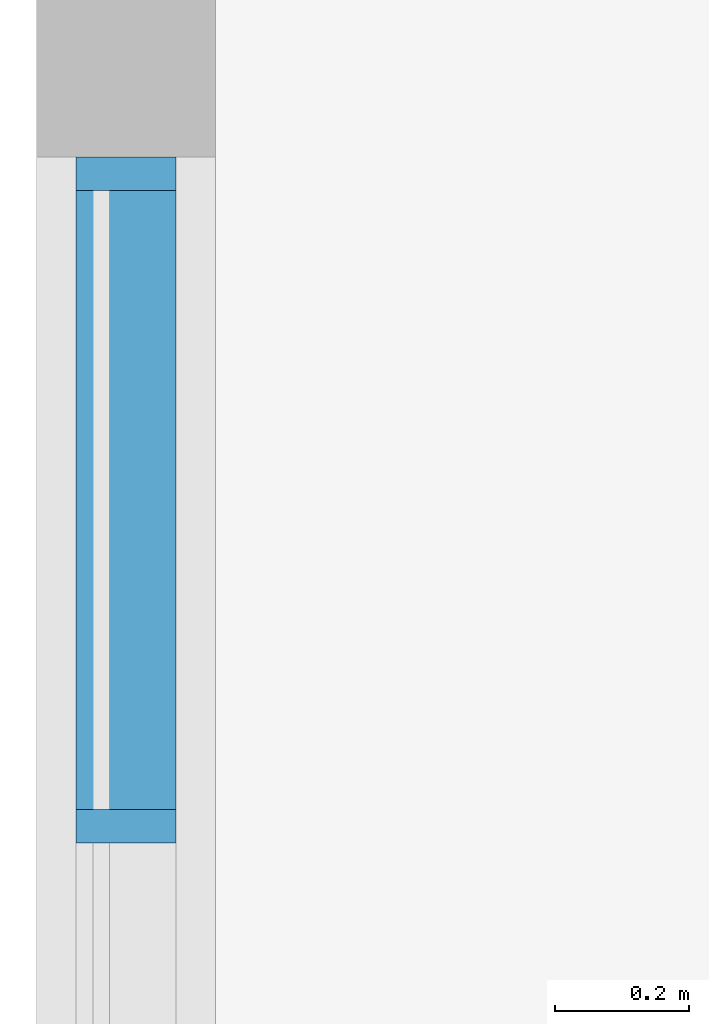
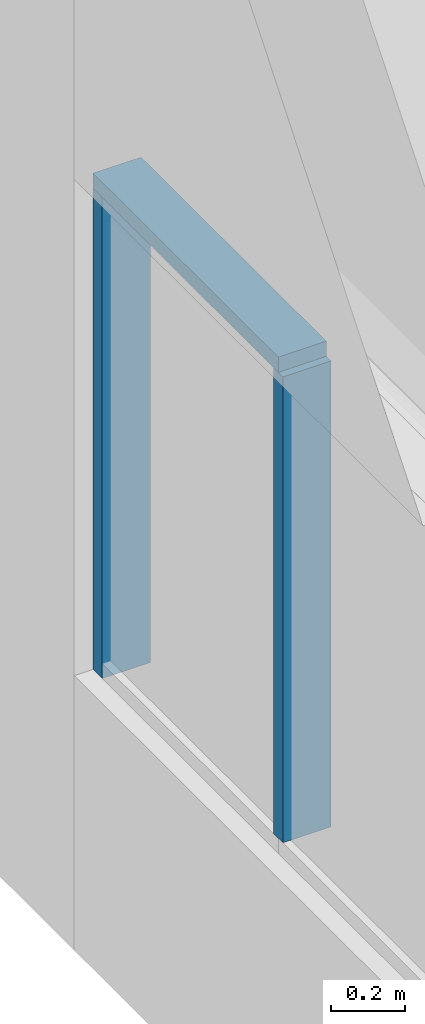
# One storey, part 4 of 87: 3 members, 1 element without a shape of its own.
"""IFC2X3 building model written with IfcOpenShell, lengths in metres."""

import ifcopenshell
import ifcopenshell.guid

model = None  # the IFC model being written
_history = None  # IfcOwnerHistory: only IFC2X3 demands one
_inside = {}  # id of a spatial element -> (the spatial element, [elements in it])
_under = {}  # id of a project, library or spatial element -> (it, [spatial elements below it])
_declared = {}  # id of a project -> (the project, [libraries it declares])
_typed = {}  # id of a type object -> (the type object, [elements of that type])
_made_of = {}  # id of a material, layer set ... -> (it, [elements and type objects made of it])


def new_model(schema):
    """Start an empty IFC model of exactly this schema.

    Asked for "IFC4X3", IfcOpenShell would pick the latest addendum, in which some entities
    have other attributes; the version numbers below select the first issue.
    IFC2X3 requires an IfcOwnerHistory on every rooted entity: one is made here for all.
    """
    global model, _history
    if schema == "IFC4X3":
        model = ifcopenshell.file(schema_version=(4, 3, 0, 0))
    else:
        model = ifcopenshell.file(schema=schema)
    _inside.clear()
    _under.clear()
    _declared.clear()
    _typed.clear()
    _made_of.clear()
    _history = None
    if model.schema == "IFC2X3":
        org = make("IfcOrganization", Name="unknown")
        user = make(
            "IfcPersonAndOrganization",
            ThePerson=make("IfcPerson", FamilyName="unknown"),
            TheOrganization=org,
        )
        app = make(
            "IfcApplication",
            ApplicationDeveloper=org,
            Version="unknown",
            ApplicationFullName="unknown",
            ApplicationIdentifier="unknown",
        )
        _history = make(
            "IfcOwnerHistory",
            OwningUser=user,
            OwningApplication=app,
            ChangeAction="ADDED",
            CreationDate=0,
        )
    return model


def make(cls, **values):
    """One entity of the class cls with the attributes given. An attribute that is None is left unset."""
    return model.create_entity(
        cls, **{name: value for name, value in values.items() if value is not None}
    )


def entity(cls, *values):
    """Any entity or typed value of the class cls, its attributes in the order of the schema. None: left unset."""
    e = model.create_entity(cls)
    for i, value in enumerate(values):
        if value is not None:
            e[i] = value
    return e


def rooted(cls, **values):
    """An entity with a GlobalId (a new one), such as an element, a storey or a relation."""
    return make(cls, GlobalId=ifcopenshell.guid.new(), OwnerHistory=_history, **values)


def si_unit(unit_type, name, prefix=None):
    """IfcSIUnit, for example si_unit("LENGTHUNIT", "METRE", prefix="MILLI")."""
    return make("IfcSIUnit", UnitType=unit_type, Prefix=prefix, Name=name)


def converted_unit(unit_type, name, factor, base, dimensions=None, offset=None):
    """IfcConversionBasedUnit, such as the inch: factor (a typed value) times the base unit."""
    return make(
        "IfcConversionBasedUnit"
        if offset is None
        else "IfcConversionBasedUnitWithOffset",
        ConversionOffset=offset,
        Dimensions=None
        if dimensions is None
        else entity("IfcDimensionalExponents", *dimensions),
        UnitType=unit_type,
        Name=name,
        ConversionFactor=make(
            "IfcMeasureWithUnit", ValueComponent=factor, UnitComponent=base
        ),
    )


def assignment(units):
    """IfcUnitAssignment: the units of a project."""
    return None if units is None else make("IfcUnitAssignment", Units=units)


def point(xyz):
    """IfcCartesianPoint."""
    return None if xyz is None else make("IfcCartesianPoint", Coordinates=xyz)


def direction(xyz):
    """IfcDirection."""
    return None if xyz is None else make("IfcDirection", DirectionRatios=xyz)


def frame(location, z_axis=None, x_axis=None):
    """IfcAxis2Placement3D, a coordinate frame: its origin and axes. An axis left out is left unset."""
    return make(
        "IfcAxis2Placement3D",
        Location=point(location),
        Axis=direction(z_axis),
        RefDirection=direction(x_axis),
    )


def frame_2d(location, x_axis=None):
    """IfcAxis2Placement2D, a coordinate frame in the plane: its origin and x axis."""
    return make(
        "IfcAxis2Placement2D", Location=point(location), RefDirection=direction(x_axis)
    )


def origin():
    """The frame at (0, 0, 0) with its axes left unset."""
    return frame((0.0, 0.0, 0.0))


def origin_2d_with_axis():
    """The frame at (0, 0) in the plane with the x axis (1, 0) written out."""
    return frame_2d((0.0, 0.0), x_axis=(1.0, 0.0))


def place(relative_to, where):
    """IfcLocalPlacement: puts the frame where relative to a parent placement (None: the world)."""
    return make(
        "IfcLocalPlacement", PlacementRelTo=relative_to, RelativePlacement=where
    )


def context(
    kind, dimensions, precision=None, world=None, true_north=None, identifier=None
):
    """IfcGeometricRepresentationContext, for example the 3D "Model" context."""
    return make(
        "IfcGeometricRepresentationContext",
        ContextIdentifier=identifier,
        ContextType=kind,
        CoordinateSpaceDimension=dimensions,
        Precision=precision,
        WorldCoordinateSystem=world,
        TrueNorth=true_north,
    )


def project(units=None, contexts=None):
    """IfcProject with its units and contexts."""
    return rooted(
        "IfcProject",
        Name="project",
        RepresentationContexts=contexts,
        UnitsInContext=assignment(units),
    )


def spatial(cls, under=None, at=None, **own):
    """A site, building, storey or space (cls), placed at a placement, below another one or the project."""
    s = rooted(cls, ObjectPlacement=at, **own)
    if under is not None:
        _under.setdefault(under.id(), (under, []))[1].append(s)
    return s


def profile(cls, at=None, kind="AREA", **sizes):
    """A parametric profile (cls). Its sizes go by their IFC names, for example OverallWidth=200.0."""
    return make(cls, ProfileType=kind, Position=at, **sizes)


def rectangle(**sizes):
    """IfcRectangleProfileDef."""
    return profile("IfcRectangleProfileDef", **sizes)


def extrude(swept, where, along, depth):
    """IfcExtrudedAreaSolid: the profile swept, set in the frame where, extruded along a direction by depth."""
    return make(
        "IfcExtrudedAreaSolid",
        SweptArea=swept,
        Position=where,
        ExtrudedDirection=direction(along),
        Depth=depth,
    )


def shape(context_of_items, identifier, shape_type, items):
    """IfcShapeRepresentation: the items that make up one representation, for example the "Body"."""
    return make(
        "IfcShapeRepresentation",
        ContextOfItems=context_of_items,
        RepresentationIdentifier=identifier,
        RepresentationType=shape_type,
        Items=items,
    )


def source(mapping_origin, context_of_items, identifier, shape_type, items):
    """IfcRepresentationMap: a shape defined once, which mapped items show again and again."""
    return make(
        "IfcRepresentationMap",
        MappingOrigin=mapping_origin,
        MappedRepresentation=shape(context_of_items, identifier, shape_type, items),
    )


def transform(
    local_origin,
    x_axis=None,
    y_axis=None,
    z_axis=None,
    scale=None,
    scale2=None,
    scale3=None,
    uniform=True,
):
    """IfcCartesianTransformationOperator3D, or its non-uniform kind. x_axis, y_axis, z_axis: its Axis1, 2, 3."""
    if uniform:
        return make(
            "IfcCartesianTransformationOperator3D",
            Axis1=direction(x_axis),
            Axis2=direction(y_axis),
            LocalOrigin=point(local_origin),
            Scale=scale,
            Axis3=direction(z_axis),
        )
    return make(
        "IfcCartesianTransformationOperator3DnonUniform",
        Axis1=direction(x_axis),
        Axis2=direction(y_axis),
        LocalOrigin=point(local_origin),
        Scale=scale,
        Axis3=direction(z_axis),
        Scale2=scale2,
        Scale3=scale3,
    )


def mapped(mapping_source, mapping_target):
    """IfcMappedItem: shows the shape of a source again, moved by a transform."""
    return make(
        "IfcMappedItem", MappingSource=mapping_source, MappingTarget=mapping_target
    )


def material(Name=None, Category=None):
    """IfcMaterial."""
    return make("IfcMaterial", Name=Name, Category=Category)


def made_of(thing, what):
    """Note that an element or type object is made of a material, layer set ...; save() writes the relation."""
    if what is not None:
        _made_of.setdefault(what.id(), (what, []))[1].append(thing)
    return thing


def type_object(cls, material=None, **own):
    """A type object (cls), such as IfcWallType, which elements share."""
    return made_of(rooted(cls, **own), material)


def type_shapes(of_type, sources):
    """Give a type object the sources (RepresentationMaps) that its elements show as mapped items."""
    of_type.RepresentationMaps = sources


def element(
    cls,
    number,
    at=None,
    inside=None,
    cuts=None,
    type_object=None,
    material=None,
    context=None,
    identifier="Body",
    shape_type=None,
    held_by="IfcProductDefinitionShape",
    body=None,
    shapes=None,
    **own,
):
    """One element of the class cls, such as IfcWall. Its Tag is "e" and its number.

    at: its placement. inside: the storey or other place that contains it. cuts: it is an
    opening in that element (IfcRelVoidsElement). A single representation is given by context,
    identifier, shape_type and body (its items); several are given by shapes. held_by: the class
    of the entity that holds the representations. save() writes the other relations.
    """
    e = rooted(cls, Tag="e%d" % number, ObjectPlacement=at, **own)
    if body is not None:
        shapes = [shape(context, identifier, shape_type, body)]
    if shapes is not None:
        e.Representation = make(held_by, Representations=shapes)
    if inside is not None:
        _inside.setdefault(inside.id(), (inside, []))[1].append(e)
    if cuts is not None:
        rooted(
            "IfcRelVoidsElement", RelatingBuildingElement=cuts, RelatedOpeningElement=e
        )
    if type_object is not None:
        _typed.setdefault(type_object.id(), (type_object, []))[1].append(e)
    return made_of(e, material)


def aggregate(whole, parts):
    """IfcRelAggregates: a whole, such as a stair, and the parts it consists of."""
    return rooted("IfcRelAggregates", RelatingObject=whole, RelatedObjects=parts)


def save(model, path):
    """Write the relations noted so far, then the file.

    IfcRelAggregates (storeys below a building ...), IfcRelContainedInSpatialStructure (elements
    in a storey), IfcRelDefinesByType, IfcRelAssociatesMaterial and IfcRelDeclares: one each for
    every whole, place, type object, material and project.
    """
    for whole, parts in _under.values():
        aggregate(whole, parts)
    for where, things in _inside.values():
        rooted(
            "IfcRelContainedInSpatialStructure",
            RelatedElements=things,
            RelatingStructure=where,
        )
    for kind, things in _typed.values():
        rooted("IfcRelDefinesByType", RelatedObjects=things, RelatingType=kind)
    for what, things in _made_of.values():
        rooted("IfcRelAssociatesMaterial", RelatedObjects=things, RelatingMaterial=what)
    for by, libraries in _declared.values():
        rooted("IfcRelDeclares", RelatingContext=by, RelatedDefinitions=libraries)
    model.write(path)


model = new_model("IFC2X3")

# Units and contexts
model_context = context("Model", 3, precision=1e-09, world=origin())
plan_context = context("Plan", 3, precision=1e-09, world=origin())
ifc_project = project(units=[si_unit("LENGTHUNIT", "METRE"), si_unit("AREAUNIT", "SQUARE_METRE"), si_unit("VOLUMEUNIT", "CUBIC_METRE"), converted_unit("PLANEANGLEUNIT", "DEGREE", entity("IfcRatioMeasure", 0.01745329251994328), si_unit("PLANEANGLEUNIT", "RADIAN"), dimensions=[0, 0, 0, 0, 0, 0, 0]), si_unit("TIMEUNIT", "SECOND")], contexts=[model_context, plan_context])

# Site, building, storey
site_placement = place(None, origin())
site = spatial("IfcSite", under=ifc_project, at=site_placement, Name="Default", CompositionType="ELEMENT")
building_placement = place(site_placement, origin())
building = spatial("IfcBuilding", under=site, at=building_placement, CompositionType="ELEMENT")
storey_placement = place(building_placement, origin())
storey = spatial("IfcBuildingStorey", under=building, at=storey_placement, Name="First Floor", CompositionType="ELEMENT", Elevation=-3.531500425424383e-13)

# Curtain wall, members
curtain_wall_placement = place(storey_placement, origin())
curtain_wall = element("IfcCurtainWall", 1, at=curtain_wall_placement, inside=storey, Name="Curtain Wall:Storefront", ObjectType="Curtain Wall:Storefront")
ifc_material = material(Name="Metal - Aluminium")
member_type_1 = type_object("IfcMemberType", Name="50 x 150mm", PredefinedType="MULLION")
shared_shape_1 = source(origin(), model_context, "Body", "SweptSolid", [
    extrude(rectangle(XDim=0.05, YDim=0.15, at=origin_2d_with_axis()), frame((-0.025, 0.0, -1.0), z_axis=(0.0, 0.0, 1.0), x_axis=(-1.0, 0.0, 0.0)), (0.0, 0.0, 1.0), 1.0),
])
type_shapes(member_type_1, [shared_shape_1])
member_1_placement = place(storey_placement, frame((-52.14650000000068, 7.759999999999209, 2.54), z_axis=(0.0, 1.0, 0.0), x_axis=(0.0, 0.0, 1.0)))
member_1 = element("IfcMember", 2, at=member_1_placement, type_object=member_type_1, material=ifc_material, Name="Rectangular Mullion:50 x 150mm:50 x 150mm", ObjectType="50 x 150mm", context=model_context, shape_type="MappedRepresentation", body=[
    mapped(shared_shape_1, transform((0.0, 0.0, 0.0), scale=1.0)),
])
member_type_2 = type_object("IfcMemberType", Name="50 x 150mm", PredefinedType="MULLION")
shared_shape_2 = source(origin(), model_context, "Body", "SweptSolid", [
    extrude(rectangle(XDim=0.05, YDim=0.15, at=origin_2d_with_axis()), frame((-0.025, 0.0, -1.585), z_axis=(0.0, 0.0, 1.0), x_axis=(-1.0, 0.0, 0.0)), (0.0, 0.0, 1.0), 1.585),
])
type_shapes(member_type_2, [shared_shape_2])
member_2_placement = place(storey_placement, frame((-52.14650000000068, 7.759999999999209, 0.905), z_axis=(0.0, 0.0, -1.0), x_axis=(0.0, 1.0, 0.0)))
member_2 = element("IfcMember", 3, at=member_2_placement, type_object=member_type_2, material=ifc_material, Name="Rectangular Mullion:50 x 150mm:50 x 150mm", ObjectType="50 x 150mm", context=model_context, shape_type="MappedRepresentation", body=[
    mapped(shared_shape_2, transform((0.0, 0.0, 0.0), scale=1.0)),
])
member_type_3 = type_object("IfcMemberType", Name="50 x 150mm", PredefinedType="MULLION")
shared_shape_3 = source(origin(), model_context, "Body", "SweptSolid", [
    extrude(rectangle(XDim=0.05, YDim=0.15, at=origin_2d_with_axis()), frame((0.0, 0.0, -1.535), z_axis=(0.0, 0.0, 1.0), x_axis=(-1.0, 0.0, 0.0)), (0.0, 0.0, 1.0), 1.535),
])
type_shapes(member_type_3, [shared_shape_3])
member_3_placement = place(storey_placement, frame((-52.14650000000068, 6.759999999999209, 0.9550000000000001), z_axis=(0.0, 0.0, -1.0), x_axis=(0.0, 1.0, 0.0)))
member_3 = element("IfcMember", 4, at=member_3_placement, type_object=member_type_3, material=ifc_material, Name="Rectangular Mullion:50 x 150mm:50 x 150mm", ObjectType="50 x 150mm", context=model_context, shape_type="MappedRepresentation", body=[
    mapped(shared_shape_3, transform((0.0, 0.0, 0.0), scale=1.0)),
])
aggregate(curtain_wall, [member_1, member_2, member_3])

save(model, "model.ifc")
